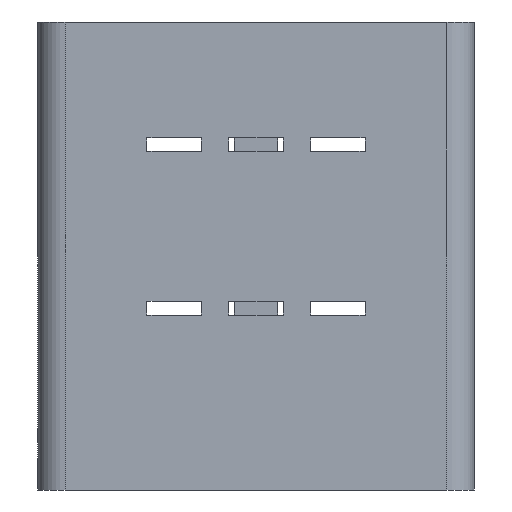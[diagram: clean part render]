
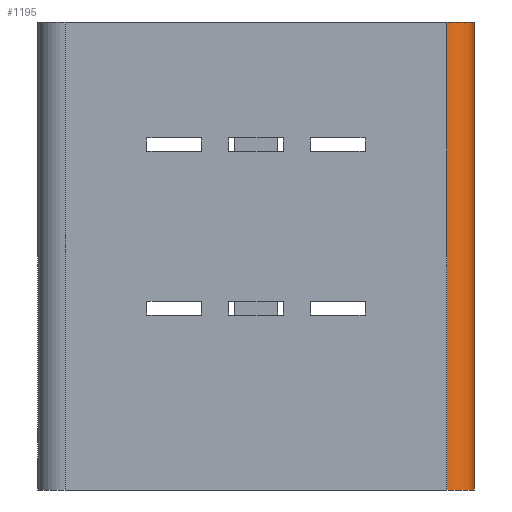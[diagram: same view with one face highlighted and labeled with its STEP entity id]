
A CAD part, left-side view. The second image highlights one B-rep face of the part: STEP entity #1195.
In plain terms, the highlighted cylindrical face has radius 6 mm (diameter 12 mm), a partial arc.
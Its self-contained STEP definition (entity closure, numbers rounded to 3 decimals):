
#22 = VERTEX_POINT('',#23);
#23 = CARTESIAN_POINT('',(-73.,-42.,103.));
#32 = PLANE('',#33);
#33 = AXIS2_PLACEMENT_3D('',#34,#35,#36);
#34 = CARTESIAN_POINT('',(-73.,-48.,0.));
#35 = DIRECTION('',(1.,0.,0.));
#36 = DIRECTION('',(0.,0.,1.));
#44 = PLANE('',#45);
#45 = AXIS2_PLACEMENT_3D('',#46,#47,#48);
#46 = CARTESIAN_POINT('',(-73.,-48.,103.));
#47 = DIRECTION('',(0.,0.,1.));
#48 = DIRECTION('',(1.,0.,0.));
#56 = EDGE_CURVE('',#57,#22,#59,.T.);
#57 = VERTEX_POINT('',#58);
#58 = CARTESIAN_POINT('',(-73.,-42.,0.));
#59 = SURFACE_CURVE('',#60,(#64,#71),.PCURVE_S1.);
#60 = LINE('',#61,#62);
#61 = CARTESIAN_POINT('',(-73.,-42.,0.));
#62 = VECTOR('',#63,1.);
#63 = DIRECTION('',(0.,0.,1.));
#64 = PCURVE('',#32,#65);
#65 = DEFINITIONAL_REPRESENTATION('',(#66),#70);
#66 = LINE('',#67,#68);
#67 = CARTESIAN_POINT('',(0.,-6.));
#68 = VECTOR('',#69,1.);
#69 = DIRECTION('',(1.,0.));
#70 = ( GEOMETRIC_REPRESENTATION_CONTEXT(2) 
PARAMETRIC_REPRESENTATION_CONTEXT() REPRESENTATION_CONTEXT('2D SPACE',''
  ) );
#71 = PCURVE('',#72,#77);
#72 = CYLINDRICAL_SURFACE('',#73,6.);
#73 = AXIS2_PLACEMENT_3D('',#74,#75,#76);
#74 = CARTESIAN_POINT('',(-67.,-42.,0.));
#75 = DIRECTION('',(0.,0.,1.));
#76 = DIRECTION('',(-1.,-0.,0.));
#77 = DEFINITIONAL_REPRESENTATION('',(#78),#82);
#78 = LINE('',#79,#80);
#79 = CARTESIAN_POINT('',(0.,0.));
#80 = VECTOR('',#81,1.);
#81 = DIRECTION('',(0.,1.));
#82 = ( GEOMETRIC_REPRESENTATION_CONTEXT(2) 
PARAMETRIC_REPRESENTATION_CONTEXT() REPRESENTATION_CONTEXT('2D SPACE',''
  ) );
#100 = PLANE('',#101);
#101 = AXIS2_PLACEMENT_3D('',#102,#103,#104);
#102 = CARTESIAN_POINT('',(-73.,-48.,0.));
#103 = DIRECTION('',(0.,0.,1.));
#104 = DIRECTION('',(1.,0.,0.));
#778 = EDGE_CURVE('',#22,#779,#781,.T.);
#779 = VERTEX_POINT('',#780);
#780 = CARTESIAN_POINT('',(-67.,-48.,103.));
#781 = SURFACE_CURVE('',#782,(#787,#794),.PCURVE_S1.);
#782 = CIRCLE('',#783,6.);
#783 = AXIS2_PLACEMENT_3D('',#784,#785,#786);
#784 = CARTESIAN_POINT('',(-67.,-42.,103.));
#785 = DIRECTION('',(0.,0.,1.));
#786 = DIRECTION('',(0.,-1.,0.));
#787 = PCURVE('',#44,#788);
#788 = DEFINITIONAL_REPRESENTATION('',(#789),#793);
#789 = CIRCLE('',#790,6.);
#790 = AXIS2_PLACEMENT_2D('',#791,#792);
#791 = CARTESIAN_POINT('',(6.,6.));
#792 = DIRECTION('',(0.,-1.));
#793 = ( GEOMETRIC_REPRESENTATION_CONTEXT(2) 
PARAMETRIC_REPRESENTATION_CONTEXT() REPRESENTATION_CONTEXT('2D SPACE',''
  ) );
#794 = PCURVE('',#72,#795);
#795 = DEFINITIONAL_REPRESENTATION('',(#796),#800);
#796 = LINE('',#797,#798);
#797 = CARTESIAN_POINT('',(-4.712,103.));
#798 = VECTOR('',#799,1.);
#799 = DIRECTION('',(1.,0.));
#800 = ( GEOMETRIC_REPRESENTATION_CONTEXT(2) 
PARAMETRIC_REPRESENTATION_CONTEXT() REPRESENTATION_CONTEXT('2D SPACE',''
  ) );
#818 = PLANE('',#819);
#819 = AXIS2_PLACEMENT_3D('',#820,#821,#822);
#820 = CARTESIAN_POINT('',(-73.,-48.,0.));
#821 = DIRECTION('',(0.,1.,0.));
#822 = DIRECTION('',(0.,0.,1.));
#1195 = ADVANCED_FACE('',(#1196),#72,.T.);
#1196 = FACE_BOUND('',#1197,.T.);
#1197 = EDGE_LOOP('',(#1198,#1222,#1243,#1244));
#1198 = ORIENTED_EDGE('',*,*,#1199,.T.);
#1199 = EDGE_CURVE('',#57,#1200,#1202,.T.);
#1200 = VERTEX_POINT('',#1201);
#1201 = CARTESIAN_POINT('',(-67.,-48.,0.));
#1202 = SURFACE_CURVE('',#1203,(#1208,#1215),.PCURVE_S1.);
#1203 = CIRCLE('',#1204,6.);
#1204 = AXIS2_PLACEMENT_3D('',#1205,#1206,#1207);
#1205 = CARTESIAN_POINT('',(-67.,-42.,0.));
#1206 = DIRECTION('',(0.,0.,1.));
#1207 = DIRECTION('',(0.,-1.,0.));
#1208 = PCURVE('',#72,#1209);
#1209 = DEFINITIONAL_REPRESENTATION('',(#1210),#1214);
#1210 = LINE('',#1211,#1212);
#1211 = CARTESIAN_POINT('',(-4.712,0.));
#1212 = VECTOR('',#1213,1.);
#1213 = DIRECTION('',(1.,0.));
#1214 = ( GEOMETRIC_REPRESENTATION_CONTEXT(2) 
PARAMETRIC_REPRESENTATION_CONTEXT() REPRESENTATION_CONTEXT('2D SPACE',''
  ) );
#1215 = PCURVE('',#100,#1216);
#1216 = DEFINITIONAL_REPRESENTATION('',(#1217),#1221);
#1217 = CIRCLE('',#1218,6.);
#1218 = AXIS2_PLACEMENT_2D('',#1219,#1220);
#1219 = CARTESIAN_POINT('',(6.,6.));
#1220 = DIRECTION('',(0.,-1.));
#1221 = ( GEOMETRIC_REPRESENTATION_CONTEXT(2) 
PARAMETRIC_REPRESENTATION_CONTEXT() REPRESENTATION_CONTEXT('2D SPACE',''
  ) );
#1222 = ORIENTED_EDGE('',*,*,#1223,.T.);
#1223 = EDGE_CURVE('',#1200,#779,#1224,.T.);
#1224 = SURFACE_CURVE('',#1225,(#1229,#1236),.PCURVE_S1.);
#1225 = LINE('',#1226,#1227);
#1226 = CARTESIAN_POINT('',(-67.,-48.,0.));
#1227 = VECTOR('',#1228,1.);
#1228 = DIRECTION('',(0.,0.,1.));
#1229 = PCURVE('',#72,#1230);
#1230 = DEFINITIONAL_REPRESENTATION('',(#1231),#1235);
#1231 = LINE('',#1232,#1233);
#1232 = CARTESIAN_POINT('',(1.571,0.));
#1233 = VECTOR('',#1234,1.);
#1234 = DIRECTION('',(0.,1.));
#1235 = ( GEOMETRIC_REPRESENTATION_CONTEXT(2) 
PARAMETRIC_REPRESENTATION_CONTEXT() REPRESENTATION_CONTEXT('2D SPACE',''
  ) );
#1236 = PCURVE('',#818,#1237);
#1237 = DEFINITIONAL_REPRESENTATION('',(#1238),#1242);
#1238 = LINE('',#1239,#1240);
#1239 = CARTESIAN_POINT('',(0.,6.));
#1240 = VECTOR('',#1241,1.);
#1241 = DIRECTION('',(1.,0.));
#1242 = ( GEOMETRIC_REPRESENTATION_CONTEXT(2) 
PARAMETRIC_REPRESENTATION_CONTEXT() REPRESENTATION_CONTEXT('2D SPACE',''
  ) );
#1243 = ORIENTED_EDGE('',*,*,#778,.F.);
#1244 = ORIENTED_EDGE('',*,*,#56,.F.);
